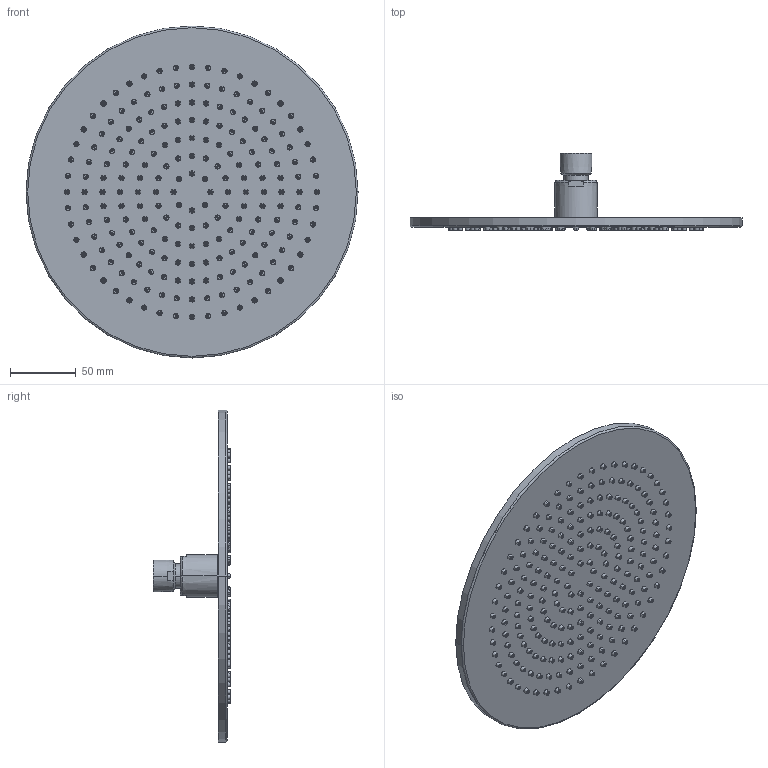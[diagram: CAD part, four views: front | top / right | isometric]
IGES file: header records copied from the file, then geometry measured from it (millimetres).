
Start section:  PTC IGES file: 90716.igs
Global section: file name: 90716.igs; native system: Creo Parametric by PTC Inc.; preprocessor: 2018100; author: carloff; organization: Unknown; date: 20210617.165233; units: millimetre
Bounding box: 252 x 58.5 x 252 mm (x, y, z)
Surface area: 216989.8 mm2 (no closed solid volume)
Topology: 0 solids, 0 shells, 1799 faces, 7788 edges, 7788 vertices
Faces by surface type: revolution 1220, bspline 579
